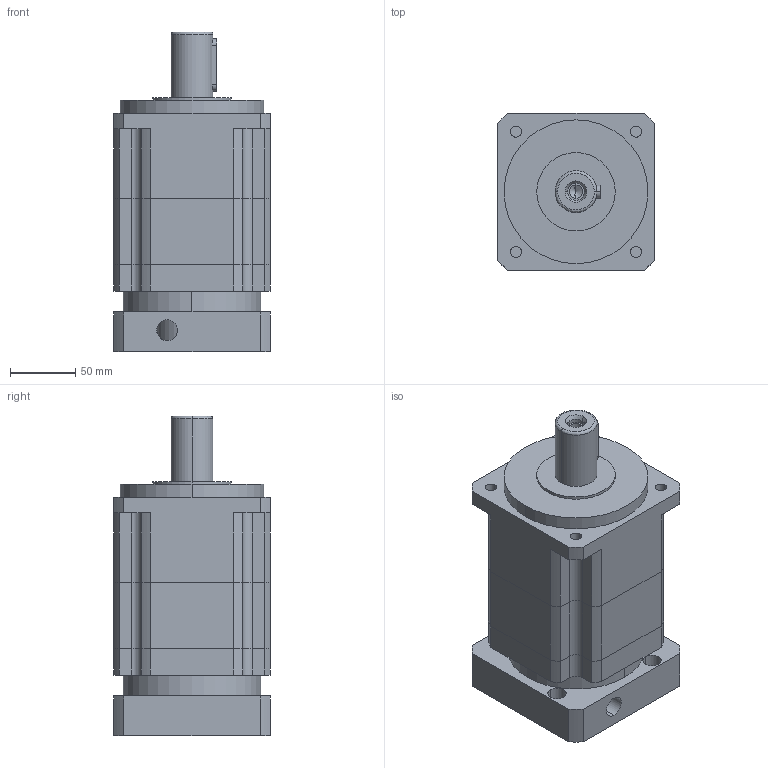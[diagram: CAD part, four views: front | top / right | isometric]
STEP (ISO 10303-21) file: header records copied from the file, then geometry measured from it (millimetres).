
FILE_DESCRIPTION (( 'STEP AP203' ), '1' );
FILE_NAME ('PAG120-L2-19-55.5-125.9.STEP', '2023-06-09T01:44:20', ( 'Windows User' ), ( 'P R C' ), 'SwSTEP 2.0', 'SolidWorks 2016', '' );
FILE_SCHEMA (( 'CONFIG_CONTROL_DESIGN' ));
Length unit declared in the file: millimetre
Products named in the file (8): 邧埴瑩 10x8x40; 粣創-6009 45x75x16; PX120-二级齿圈; PAG120-L2-19-55.5-125.9; PX120-本体齿圈; PX120-薊粣ん-19_LZ03; PX120-蟀諉-55.5-M8-125.9-LR60; 囀鞠褒蹟佪-M8℅25
Assembly tree (7 placements, depth 2):
  PAG120-L2-19-55.5-125.9
    PX120-本体齿圈
    PX120-薊粣ん-19_LZ03
    PX120-蟀諉-55.5-M8-125.9-LR60
    囀鞠褒蹟佪-M8℅25
    邧埴瑩 10x8x40
    粣創-6009 45x75x16
    PX120-二级齿圈
Bounding box: 120 x 120 x 244.5 mm (x, y, z)
Volume: 2277275 mm3; surface area: 264494.2 mm2
Topology: 7 solids, 7 shells, 1061 faces, 2914 edges, 1922 vertices
Faces by surface type: plane 574, bspline 306, cylinder 165, cone 16
Entity records: 46606 total; most frequent: CARTESIAN_POINT 20672, ORIENTED_EDGE 5800, DIRECTION 4228, EDGE_CURVE 2900, VERTEX_POINT 1918, VECTOR 1680, LINE 1680, AXIS2_PLACEMENT_3D 1274
